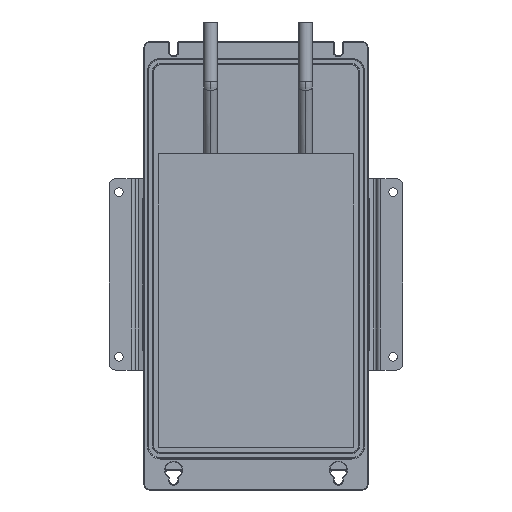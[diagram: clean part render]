
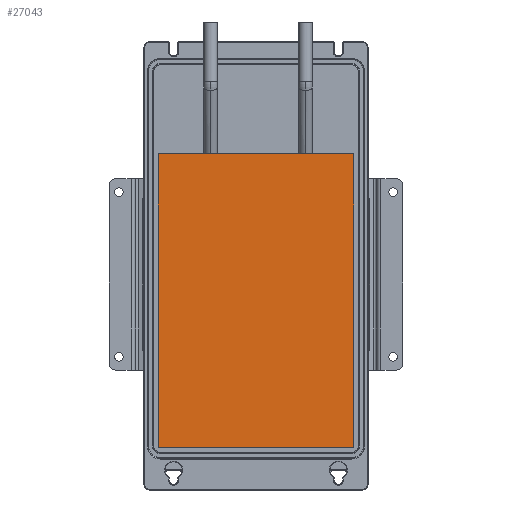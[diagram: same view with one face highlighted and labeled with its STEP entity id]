
A CAD part, front view. The second image highlights one B-rep face of the part: STEP entity #27043.
In plain terms, the highlighted planar face has unit normal (0, -1, 0).
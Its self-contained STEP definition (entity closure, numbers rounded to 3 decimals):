
#1386 = ORIENTED_EDGE ( 'NONE', *, *, #67829, .T. ) ;
#1889 = AXIS2_PLACEMENT_3D ( 'NONE', #25733, #68846, #36272 ) ;
#2080 = EDGE_CURVE ( 'NONE', #22825, #69601, #61889, .T. ) ;
#2248 = ORIENTED_EDGE ( 'NONE', *, *, #68616, .T. ) ;
#7127 = CARTESIAN_POINT ( 'NONE',  ( -74., -19.5, -5. ) ) ;
#9091 = VECTOR ( 'NONE', #29274, 1000. ) ;
#14135 = FACE_OUTER_BOUND ( 'NONE', #18945, .T. ) ;
#15700 = LINE ( 'NONE', #55495, #47144 ) ;
#18945 = EDGE_LOOP ( 'NONE', ( #71731, #1386, #59133, #2248 ) ) ;
#22825 = VERTEX_POINT ( 'NONE', #42417 ) ;
#25733 = CARTESIAN_POINT ( 'NONE',  ( 0., -19.5, -5. ) ) ;
#27043 = ADVANCED_FACE ( 'NONE', ( #14135 ), #58310, .F. ) ;
#28465 = VECTOR ( 'NONE', #49298, 1000. ) ;
#28912 = VERTEX_POINT ( 'NONE', #71493 ) ;
#29274 = DIRECTION ( 'NONE',  ( 0., 0., -1. ) ) ;
#32238 = CARTESIAN_POINT ( 'NONE',  ( 74., -19.5, -5. ) ) ;
#32999 = LINE ( 'NONE', #71377, #28465 ) ;
#36272 = DIRECTION ( 'NONE',  ( -1., 0., 0. ) ) ;
#39015 = VECTOR ( 'NONE', #55310, 1000. ) ;
#39670 = EDGE_CURVE ( 'NONE', #28912, #56445, #32999, .T. ) ;
#42417 = CARTESIAN_POINT ( 'NONE',  ( -74., -19.5, -5. ) ) ;
#43958 = CARTESIAN_POINT ( 'NONE',  ( -74., -19.5, -228. ) ) ;
#44460 = CARTESIAN_POINT ( 'NONE',  ( 74., -19.5, -5. ) ) ;
#44821 = LINE ( 'NONE', #44460, #39015 ) ;
#47144 = VECTOR ( 'NONE', #54806, 1000. ) ;
#49298 = DIRECTION ( 'NONE',  ( 0., 0., 1. ) ) ;
#54806 = DIRECTION ( 'NONE',  ( 1., 0., 0. ) ) ;
#55310 = DIRECTION ( 'NONE',  ( -1., 0., 0. ) ) ;
#55495 = CARTESIAN_POINT ( 'NONE',  ( 74., -19.5, -228. ) ) ;
#56445 = VERTEX_POINT ( 'NONE', #32238 ) ;
#58310 = PLANE ( 'NONE',  #1889 ) ;
#59133 = ORIENTED_EDGE ( 'NONE', *, *, #2080, .T. ) ;
#61889 = LINE ( 'NONE', #7127, #9091 ) ;
#67829 = EDGE_CURVE ( 'NONE', #56445, #22825, #44821, .T. ) ;
#68616 = EDGE_CURVE ( 'NONE', #69601, #28912, #15700, .T. ) ;
#68846 = DIRECTION ( 'NONE',  ( 0., 1., 0. ) ) ;
#69601 = VERTEX_POINT ( 'NONE', #43958 ) ;
#71377 = CARTESIAN_POINT ( 'NONE',  ( 74., -19.5, -5. ) ) ;
#71493 = CARTESIAN_POINT ( 'NONE',  ( 74., -19.5, -228. ) ) ;
#71731 = ORIENTED_EDGE ( 'NONE', *, *, #39670, .T. ) ;
